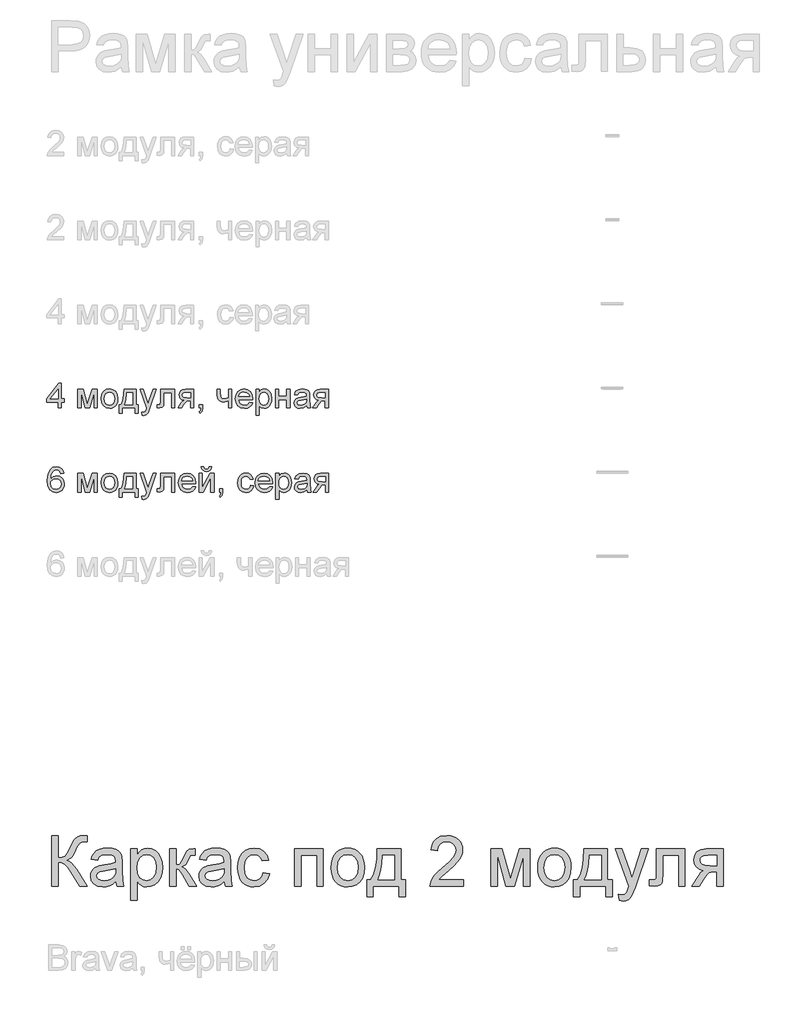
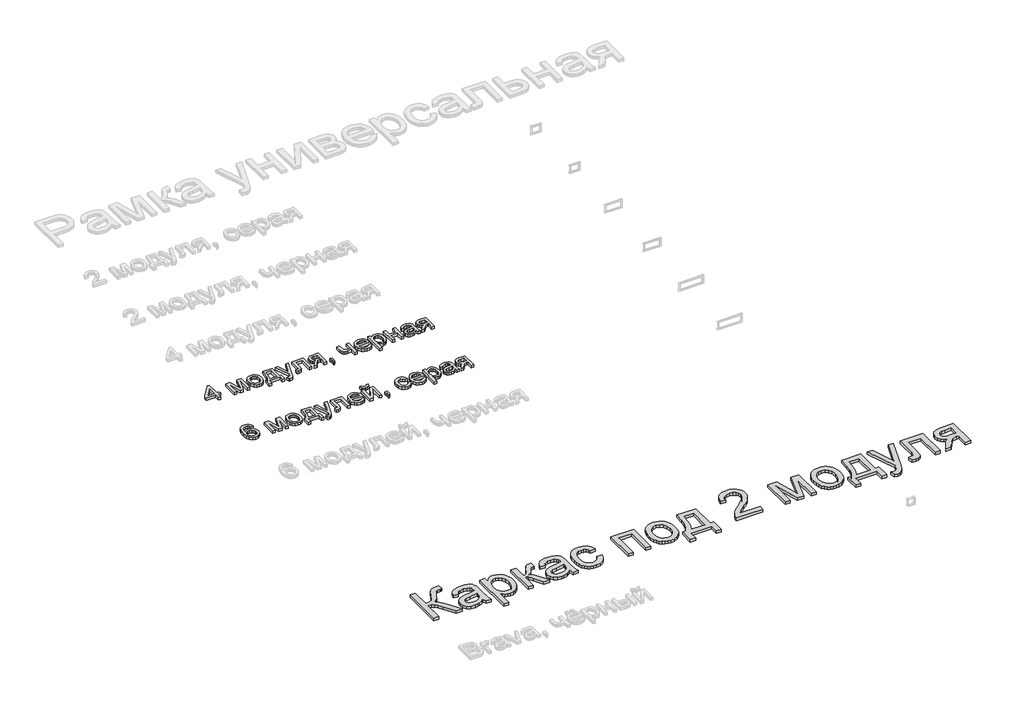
# One storey, part 5 of 168: 3 proxies.
"""IFC4 building model written with IfcOpenShell, lengths in millimetres."""

from ifc_helpers import new_model, si_unit, origin, origin_with_axes, place, context, project, spatial, polyline, outline, extrude, element, save

model = new_model("IFC4")

# Units and contexts
model_context = context("Model", 3, world=origin())
ifc_project = project(units=[si_unit("LENGTHUNIT", "METRE", prefix="MILLI")], contexts=[model_context])

# Site, building, storey
site = spatial("IfcSite", under=ifc_project)
building = spatial("IfcBuilding", under=site)
storey = spatial("IfcBuildingStorey", under=building, Name="Этаж 01", Elevation=0.0)

# Proxies
placement = place(None, origin())
element("IfcBuildingElementProxy", 1, Name="300 мм Arial 2", ObjectType="300 мм Arial 2", at=placement, inside=storey, context=model_context, shape_type="SweptSolid", body=[
    extrude(outline(polyline([(778.8177316, -47716.3130775), (816.4888479, -47716.3130775), (816.4888479, -47848.1619845), (841.9922672, -47845.669584), (858.6113363, -47838.1923825), (872.0482262, -47820.5984261), (888.0051077, -47787.7557609), (908.7904405, -47745.6332725), (918.8152248, -47734.2197336), (932.3348881, -47724.7743634), (948.3837402, -47718.4283989), (965.9960907, -47716.3130775), (990.7177608, -47716.7545359), (990.7177608, -47754.4256522), (982.4036277, -47754.204923), (974.0894946, -47753.9841938), (956.835829, -47756.246668), (944.658935, -47763.0340909), (934.1742981, -47777.2895182), (922.2917097, -47801.8088531), (907.7143856, -47832.3430587), (895.620265, -47849.0449013), (869.611008, -47864.6430979), (884.2021276, -47870.8511066), (898.6920797, -47881.6760343), (927.3684812, -47917.1766468), (990.7177608, -48017.6820079), (947.0133798, -48017.6820079), (893.4497613, -47932.7748434), (872.7655961, -47905.5423787), (855.7418568, -47888.445063), (838.3318413, -47879.4227571), (816.4888479, -47876.4153218), (816.4888479, -48017.6820079), (778.8177316, -48017.6820079), (778.8177316, -47716.3130775)])), origin_with_axes(), (0.0, 0.0, 1.0), 20.0),
    extrude(outline(polyline([(1160.2377842, -47989.4286707), (1142.2391575, -48004.8613204), (1123.707102, -48014.9596812), (1104.2185533, -48020.5330934), (1083.3504472, -48022.3908975), (1051.8689454, -48017.9211312), (1028.6463945, -48004.5118325), (1014.3265878, -47984.1495641), (1009.5533189, -47958.8208887), (1011.3559407, -47943.204298), (1016.763806, -47929.0224471), (1025.1055303, -47916.8823412), (1035.7097288, -47907.3909858), (1062.0868678, -47895.0301507), (1094.6812126, -47889.364768), (1133.1984575, -47883.4050797), (1160.017055, -47876.4153218), (1160.2377842, -47868.0276123), (1157.6442161, -47851.2154051), (1149.8635119, -47840.2157334), (1132.4626935, -47832.0487532), (1108.21927, -47829.3264264), (1085.7784683, -47831.1382452), (1070.1066953, -47836.5737017), (1059.4197234, -47846.6260772), (1051.9333248, -47862.2886532), (1014.2622085, -47857.5797636), (1020.8013109, -47836.9783719), (1030.5593809, -47820.7915641), (1044.4469262, -47808.412335), (1063.3744548, -47799.2336792), (1086.5234294, -47793.5499024), (1113.0753124, -47791.6553101), (1138.5419435, -47793.3291732), (1158.729468, -47798.3507624), (1173.9505855, -47805.9015403), (1184.5179958, -47815.1629696), (1191.5261479, -47826.6132967), (1196.0694905, -47840.7307682), (1197.9089005, -47873.692995), (1197.9089005, -47920.5611612), (1199.8218868, -47986.0073681), (1207.3266795, -48017.6820079), (1169.6555632, -48017.6820079), (1160.2377842, -47989.4286707)]), holes=[polyline([(1160.2377842, -47914.0864381), (1099.4636786, -47925.6379327), (1067.0532748, -47931.7447738), (1052.3747832, -47941.6775877), (1047.2244352, -47956.1721383), (1050.0295355, -47967.3741451), (1058.4448361, -47976.5528009), (1072.2863962, -47982.6780361), (1091.3702747, -47984.7197812), (1111.6037844, -47982.4665039), (1129.4828494, -47975.7066723), (1143.9774, -47965.7462672), (1154.0573666, -47953.89127), (1158.5271329, -47941.6775877), (1160.017055, -47924.7550159), (1160.2377842, -47914.0864381)])]), origin_with_axes(), (0.0, 0.0, 1.0), 20.0),
    extrude(outline(polyline([(1249.7066854, -48102.4420196), (1249.7066854, -47796.3641996), (1287.3778017, -47796.3641996), (1287.3778017, -47833.2995519), (1299.6650603, -47815.0801961), (1313.423847, -47802.0663705), (1329.4635019, -47794.2580752), (1348.5933657, -47791.6553101), (1374.0691939, -47795.2973418), (1396.3444487, -47806.2234371), (1414.481031, -47823.7714083), (1427.5408419, -47847.2790678), (1435.4319107, -47875.0357643), (1438.0622669, -47905.3308466), (1435.0916198, -47937.5481123), (1426.1796785, -47966.3624696), (1411.6115515, -47990.3115875), (1391.6723473, -48007.933135), (1368.4497964, -48018.7764569), (1344.031629, -48022.3908975), (1326.713584, -48019.9720733), (1311.2533432, -48012.715601), (1298.0187884, -48001.7619146), (1287.3778017, -47988.2514483), (1287.3778017, -48102.4420196), (1249.7066854, -48102.4420196)]), holes=[polyline([(1287.3778017, -47908.7889373), (1291.4520948, -47942.5605045), (1303.6749741, -47966.1785286), (1321.7103889, -47980.084468), (1343.2222886, -47984.7197812), (1365.0836761, -47979.9189211), (1383.5789434, -47965.516341), (1396.1880988, -47941.0337942), (1400.3911506, -47905.9930342), (1396.2892664, -47872.405408), (1383.9836136, -47848.4562901), (1365.97579, -47834.1088923), (1344.7673929, -47829.3264264), (1323.4762225, -47834.412395), (1304.7786201, -47849.6703007), (1291.7280063, -47874.621897), (1287.3778017, -47908.7889373)])]), origin_with_axes(), (0.0, 0.0, 1.0), 20.0),
    extrude(outline(polyline([(1480.4422728, -47796.3641996), (1518.1133891, -47796.3641996), (1518.1133891, -47890.5419904), (1533.4356742, -47888.8497332), (1543.3500939, -47883.7729617), (1552.1240795, -47870.5292098), (1564.0250621, -47844.3360118), (1581.2051512, -47810.3069272), (1596.3618894, -47799.2336792), (1623.9162509, -47796.3641996), (1631.126738, -47796.3641996), (1631.126738, -47834.2560451), (1620.9731949, -47834.0353159), (1602.5790952, -47838.0084415), (1589.6296489, -47862.8036879), (1574.4361225, -47889.6222854), (1553.135755, -47902.7556726), (1565.0735258, -47908.0577719), (1576.9009319, -47917.4157701), (1600.2246504, -47948.2994636), (1640.5445171, -48017.6820079), (1597.7230528, -48017.6820079), (1558.2125265, -47949.7709916), (1538.3468988, -47921.0394078), (1529.0578784, -47915.8246805), (1518.1133891, -47914.0864381), (1518.1133891, -48017.6820079), (1480.4422728, -48017.6820079), (1480.4422728, -47796.3641996)])), origin_with_axes(), (0.0, 0.0, 1.0), 20.0),
    extrude(outline(polyline([(1805.3556509, -47989.4286707), (1787.3570243, -48004.8613204), (1768.8249688, -48014.9596812), (1749.3364201, -48020.5330934), (1728.4683139, -48022.3908975), (1696.9868122, -48017.9211312), (1673.7642612, -48004.5118325), (1659.4444546, -47984.1495641), (1654.6711857, -47958.8208887), (1656.4738075, -47943.204298), (1661.8816728, -47929.0224471), (1670.223397, -47916.8823412), (1680.8275955, -47907.3909858), (1707.2047346, -47895.0301507), (1739.7990794, -47889.364768), (1778.3163243, -47883.4050797), (1805.1349217, -47876.4153218), (1805.3556509, -47868.0276123), (1802.7620828, -47851.2154051), (1794.9813786, -47840.2157334), (1777.5805603, -47832.0487532), (1753.3371368, -47829.3264264), (1730.8963351, -47831.1382452), (1715.2245621, -47836.5737017), (1704.5375901, -47846.6260772), (1697.0511915, -47862.2886532), (1659.3800752, -47857.5797636), (1665.9191777, -47836.9783719), (1675.6772476, -47820.7915641), (1689.5647929, -47808.412335), (1708.4923216, -47799.2336792), (1731.6412961, -47793.5499024), (1758.1931791, -47791.6553101), (1783.6598102, -47793.3291732), (1803.8473347, -47798.3507624), (1819.0684523, -47805.9015403), (1829.6358626, -47815.1629696), (1836.6440146, -47826.6132967), (1841.1873572, -47840.7307682), (1843.0267672, -47873.692995), (1843.0267672, -47920.5611612), (1844.9397536, -47986.0073681), (1852.4445463, -48017.6820079), (1814.77343, -48017.6820079), (1805.3556509, -47989.4286707)]), holes=[polyline([(1805.3556509, -47914.0864381), (1744.5815453, -47925.6379327), (1712.1711415, -47931.7447738), (1697.4926499, -47941.6775877), (1692.342302, -47956.1721383), (1695.1474022, -47967.3741451), (1703.5627028, -47976.5528009), (1717.4042629, -47982.6780361), (1736.4881414, -47984.7197812), (1756.7216511, -47982.4665039), (1774.6007161, -47975.7066723), (1789.0952667, -47965.7462672), (1799.1752334, -47953.89127), (1803.6449996, -47941.6775877), (1805.1349217, -47924.7550159), (1805.3556509, -47914.0864381)])]), origin_with_axes(), (0.0, 0.0, 1.0), 20.0),
    extrude(outline(polyline([(2036.0912383, -47937.6308858), (2073.7623546, -47942.3397753), (2063.2593236, -47975.844628), (2043.5224546, -48001.1641063), (2016.4095515, -48017.0841997), (1983.7784186, -48022.3908975), (1962.6504957, -48020.5399912), (1943.7068722, -48014.9872723), (1926.9475481, -48005.7327409), (1912.3725233, -47992.7763968), (1900.5750076, -47976.3619621), (1892.1482106, -47956.7331584), (1887.0921324, -47933.8899857), (1885.4067731, -47907.8324442), (1888.2854497, -47874.3091973), (1896.9214795, -47845.2557168), (1911.4528183, -47821.7940425), (1932.0174218, -47805.0462147), (1956.6195303, -47795.0030362), (1983.2633838, -47791.6553101), (2015.0943734, -47796.253835), (2040.5426104, -47810.0494098), (2058.7987544, -47832.3062705), (2069.053465, -47862.2886532), (2031.3823487, -47866.9975427), (2024.5489407, -47850.5624146), (2013.907954, -47838.7809937), (2000.0479998, -47831.6900682), (1983.5576894, -47829.3264264), (1959.2130983, -47833.9801336), (1939.8900965, -47847.9412553), (1927.2809412, -47871.9639496), (1923.0778894, -47906.8023746), (1927.1889707, -47942.1098491), (1939.5222145, -47966.2153168), (1958.4957284, -47980.0936651), (1982.5276198, -47984.7197812), (2002.0345626, -47981.8319075), (2018.0282323, -47973.1682865), (2029.6625004, -47958.508189), (2036.0912383, -47937.6308858)])), origin_with_axes(), (0.0, 0.0, 1.0), 20.0),
    extrude(outline(polyline([(2224.4468198, -47796.3641996), (2393.9668432, -47796.3641996), (2393.9668432, -48017.6820079), (2356.2957269, -48017.6820079), (2356.2957269, -47834.0353159), (2262.1179361, -47834.0353159), (2262.1179361, -48017.6820079), (2224.4468198, -48017.6820079), (2224.4468198, -47796.3641996)])), origin_with_axes(), (0.0, 0.0, 1.0), 20.0),
    extrude(outline(polyline([(2441.0557386, -47907.0231038), (2443.0928851, -47878.3604978), (2449.2043248, -47853.6618204), (2459.3900575, -47832.9270714), (2473.6500833, -47816.156251), (2488.0066782, -47805.4370893), (2503.8531951, -47797.7805453), (2521.1896342, -47793.1866189), (2540.0159953, -47791.6553101), (2560.7990287, -47793.5200119), (2579.5909009, -47799.1141175), (2596.3916118, -47808.4376268), (2611.2011613, -47821.4905399), (2623.2883841, -47837.8313983), (2631.9221147, -47857.0187436), (2637.1023531, -47879.0525758), (2638.8290992, -47903.932895), (2635.7756786, -47941.9902874), (2626.6154169, -47970.9609945), (2611.6150286, -47992.6568352), (2591.041228, -48008.8896282), (2566.6046665, -48019.0155802), (2540.0159953, -48022.3908975), (2518.9294592, -48020.5330934), (2499.962843, -48014.9596812), (2483.1161469, -48005.6706608), (2468.3893708, -47992.6660322), (2456.4309067, -47976.1665248), (2447.8891466, -47956.3928675), (2442.7640906, -47933.3450605), (2441.0557386, -47907.0231038)]), holes=[polyline([(2478.7268549, -47906.9495274), (2483.0862565, -47941.0429913), (2496.1644614, -47965.3324), (2515.8461482, -47979.8729359), (2540.0159953, -47984.7197812), (2564.0754778, -47979.8453447), (2583.7203763, -47965.2220354), (2596.7985812, -47940.6107299), (2601.1579829, -47905.772305), (2596.7709901, -47872.6721225), (2583.6100117, -47848.7138075), (2563.937522, -47834.1732717), (2540.0159953, -47829.3264264), (2515.8461482, -47834.1548776), (2496.1644614, -47848.6402311), (2483.0862565, -47872.8744576), (2478.7268549, -47906.9495274)])]), origin_with_axes(), (0.0, 0.0, 1.0), 20.0),
    extrude(outline(polyline([(2714.1713318, -47796.3641996), (2855.4380179, -47796.3641996), (2855.4380179, -47980.0108916), (2883.6913552, -47980.0108916), (2883.6913552, -48078.8975719), (2846.0202389, -48078.8975719), (2846.0202389, -48017.6820079), (2690.6268841, -48017.6820079), (2690.6268841, -48078.8975719), (2652.9557678, -48078.8975719), (2652.9557678, -47980.0108916), (2676.5002155, -47980.0108916), (2693.6159253, -47949.0812129), (2705.5996813, -47908.163538), (2712.4514835, -47857.2578669), (2714.1713318, -47796.3641996)]), holes=[polyline([(2747.1335586, -47834.0353159), (2744.0433498, -47880.1585211), (2738.3043907, -47919.8621854), (2729.9166812, -47953.1463089), (2718.8802213, -47980.0108916), (2817.7669016, -47980.0108916), (2817.7669016, -47834.0353159), (2747.1335586, -47834.0353159)])]), origin_with_axes(), (0.0, 0.0, 1.0), 20.0),
    extrude(outline(polyline([(3227.4402915, -47980.0108916), (3227.4402915, -48017.6820079), (3029.6669309, -48017.6820079), (3033.7136328, -47991.7095391), (3043.0026532, -47971.41165), (3056.5958929, -47951.7207662), (3076.2591855, -47931.1101774), (3103.7583647, -47908.0531734), (3144.4093251, -47871.9455555), (3168.7999014, -47845.292505), (3180.9951896, -47823.6610437), (3185.0602856, -47802.6181935), (3181.2251158, -47783.7550442), (3169.7196064, -47768.0740742), (3152.0336795, -47757.5066639), (3129.6572571, -47753.9841938), (3106.1587947, -47757.4238904), (3087.9026507, -47767.7429804), (3076.1212298, -47784.1321233), (3072.0469367, -47805.7819787), (3034.3758204, -47801.0730892), (3043.5084909, -47764.6343775), (3052.0548495, -47750.0984402), (3063.254557, -47738.0181152), (3076.850096, -47728.5221612), (3092.5839491, -47721.7393369), (3130.4665975, -47716.3130775), (3150.6564213, -47717.8213936), (3168.6251575, -47722.3463422), (3184.3728061, -47729.8879231), (3197.8993672, -47740.4461364), (3208.7633824, -47753.2392327), (3216.5233933, -47767.485463), (3221.1793998, -47783.1848271), (3222.7314019, -47800.3373252), (3221.0575388, -47818.3543459), (3216.0359496, -47836.0586669), (3207.1240083, -47854.0664906), (3193.7790889, -47872.9940192), (3172.5063125, -47895.5911708), (3139.8108002, -47924.6078631), (3096.4743012, -47960.8442397), (3079.478153, -47980.0108916), (3227.4402915, -47980.0108916)])), origin_with_axes(), (0.0, 0.0, 1.0), 20.0),
    extrude(outline(polyline([(3392.2514253, -47796.3641996), (3457.0722328, -47796.3641996), (3507.0306078, -47973.5361685), (3560.8885319, -47796.3641996), (3622.9870127, -47796.3641996), (3622.9870127, -48017.6820079), (3585.3158964, -48017.6820079), (3585.3158964, -47839.4799695), (3531.1636667, -48017.6820079), (3481.7203265, -48017.6820079), (3429.9225416, -47830.9451072), (3429.9225416, -48017.6820079), (3392.2514253, -48017.6820079), (3392.2514253, -47796.3641996)])), origin_with_axes(), (0.0, 0.0, 1.0), 20.0),
    extrude(outline(polyline([(3670.0759081, -47907.0231038), (3672.1130546, -47878.3604978), (3678.2244942, -47853.6618204), (3688.410227, -47832.9270714), (3702.6702528, -47816.156251), (3717.0268477, -47805.4370893), (3732.8733646, -47797.7805453), (3750.2098037, -47793.1866189), (3769.0361648, -47791.6553101), (3789.8191982, -47793.5200119), (3808.6110704, -47799.1141175), (3825.4117813, -47808.4376268), (3840.2213308, -47821.4905399), (3852.3085536, -47837.8313983), (3860.9422842, -47857.0187436), (3866.1225225, -47879.0525758), (3867.8492687, -47903.932895), (3864.7958481, -47941.9902874), (3855.6355864, -47970.9609945), (3840.6351981, -47992.6568352), (3820.0613975, -48008.8896282), (3795.624836, -48019.0155802), (3769.0361648, -48022.3908975), (3747.9496286, -48020.5330934), (3728.9830125, -48014.9596812), (3712.1363164, -48005.6706608), (3697.4095403, -47992.6660322), (3685.4510762, -47976.1665248), (3676.9093161, -47956.3928675), (3671.7842601, -47933.3450605), (3670.0759081, -47907.0231038)]), holes=[polyline([(3707.7470244, -47906.9495274), (3712.106426, -47941.0429913), (3725.1846309, -47965.3324), (3744.8663177, -47979.8729359), (3769.0361648, -47984.7197812), (3793.0956472, -47979.8453447), (3812.7405458, -47965.2220354), (3825.8187507, -47940.6107299), (3830.1781524, -47905.772305), (3825.7911596, -47872.6721225), (3812.6301812, -47848.7138075), (3792.9576915, -47834.1732717), (3769.0361648, -47829.3264264), (3744.8663177, -47834.1548776), (3725.1846309, -47848.6402311), (3712.106426, -47872.8744576), (3707.7470244, -47906.9495274)])]), origin_with_axes(), (0.0, 0.0, 1.0), 20.0),
    extrude(outline(polyline([(3943.1915013, -47796.3641996), (4084.4581874, -47796.3641996), (4084.4581874, -47980.0108916), (4112.7115247, -47980.0108916), (4112.7115247, -48078.8975719), (4075.0404083, -48078.8975719), (4075.0404083, -48017.6820079), (3919.6470536, -48017.6820079), (3919.6470536, -48078.8975719), (3881.9759373, -48078.8975719), (3881.9759373, -47980.0108916), (3905.520385, -47980.0108916), (3922.6360948, -47949.0812129), (3934.6198508, -47908.163538), (3941.4716529, -47857.2578669), (3943.1915013, -47796.3641996)]), holes=[polyline([(3976.153728, -47834.0353159), (3973.0635193, -47880.1585211), (3967.3245602, -47919.8621854), (3958.9368507, -47953.1463089), (3947.9003908, -47980.0108916), (4046.7870711, -47980.0108916), (4046.7870711, -47834.0353159), (3976.153728, -47834.0353159)])]), origin_with_axes(), (0.0, 0.0, 1.0), 20.0),
    extrude(outline(polyline([(4155.0915305, -48102.4420196), (4150.382641, -48066.1688549), (4169.5125047, -48069.4797928), (4187.3915697, -48065.3227263), (4198.3544531, -48053.7344434), (4208.655149, -48025.996141), (4211.598205, -48016.8726675), (4131.5470828, -47796.3641996), (4171.2783383, -47796.3641996), (4213.7319205, -47919.236786), (4228.5207767, -47968.3858206), (4243.3096329, -47924.9757451), (4286.9404376, -47796.3641996), (4326.3773875, -47796.3641996), (4249.3428977, -48022.9795086), (4229.3301171, -48072.1285432), (4219.0846036, -48087.8187103), (4207.4779266, -48098.6896233), (4193.9950515, -48105.0355877), (4178.1209434, -48107.1509091), (4155.0915305, -48102.4420196)])), origin_with_axes(), (0.0, 0.0, 1.0), 20.0),
    extrude(outline(polyline([(4376.4093388, -47796.3641996), (4545.9293622, -47796.3641996), (4545.9293622, -48017.4612787), (4508.2582459, -48017.4612787), (4508.2582459, -47834.0353159), (4414.0804551, -47834.0353159), (4414.0804551, -47939.6174485), (4411.5420693, -47988.3250247), (4406.7871945, -47999.3522875), (4397.5993417, -48008.8896282), (4383.6566141, -48015.483913), (4364.6371149, -48017.6820079), (4334.029333, -48015.7690215), (4334.029333, -47980.0108916), (4350.8783283, -47980.0108916), (4367.9112647, -47977.693235), (4374.7170816, -47970.3355951), (4376.4093388, -47937.483733), (4376.4093388, -47796.3641996)])), origin_with_axes(), (0.0, 0.0, 1.0), 20.0),
    extrude(outline(polyline([(4771.95606, -47796.3641996), (4771.95606, -48017.6820079), (4734.2849437, -48017.6820079), (4734.2849437, -47932.9219962), (4713.7571284, -47932.9219962), (4685.7980967, -47937.7044622), (4674.6328782, -47948.1339167), (4659.5313223, -47969.8573485), (4629.5121515, -48017.6820079), (4585.9549232, -48017.6820079), (4623.7731924, -47957.2022079), (4640.4750349, -47935.4971702), (4655.8525023, -47925.8586619), (4630.1007627, -47917.9675931), (4612.0009685, -47902.9764018), (4601.2956024, -47883.0371977), (4597.7271471, -47860.3020904), (4602.6015835, -47834.5135625), (4617.2248928, -47814.0961118), (4641.0820402, -47800.7971777), (4673.6579909, -47796.3641996), (4771.95606, -47796.3641996)]), holes=[polyline([(4734.2849437, -47834.0353159), (4684.6208744, -47834.0353159), (4658.9703022, -47836.2150167), (4644.4113723, -47842.7541192), (4637.6515406, -47852.2178835), (4635.3982634, -47863.1715699), (4638.7183984, -47877.5281648), (4648.6788034, -47887.4885698), (4667.0821002, -47893.3103024), (4695.7309106, -47895.2508799), (4734.2849437, -47895.2508799), (4734.2849437, -47834.0353159)])]), origin_with_axes(), (0.0, 0.0, 1.0), 20.0),
])
element("IfcBuildingElementProxy", 2, Name="150", ObjectType="150", at=placement, inside=storey, context=model_context, shape_type="SweptSolid", body=[
    extrude(outline(polyline([(816.4888479, -45175.2343796), (816.4888479, -45139.9177081), (748.2099496, -45139.9177081), (748.2099496, -45121.0821499), (821.1977374, -45026.9043591), (835.324406, -45026.9043591), (835.324406, -45121.0821499), (854.1599642, -45121.0821499), (854.1599642, -45139.9177081), (835.324406, -45139.9177081), (835.324406, -45175.2343796), (816.4888479, -45175.2343796)]), holes=[polyline([(816.4888479, -45121.0821499), (816.4888479, -45062.8832183), (771.3865153, -45121.0821499), (816.4888479, -45121.0821499)])]), origin_with_axes(), (0.0, 0.0, 1.0), 20.0),
    extrude(outline(polyline([(934.2110863, -45064.5754754), (966.6214901, -45064.5754754), (991.6006776, -45153.1614599), (1018.5296396, -45064.5754754), (1049.57888, -45064.5754754), (1049.57888, -45175.2343796), (1030.7433219, -45175.2343796), (1030.7433219, -45086.1333604), (1003.667207, -45175.2343796), (978.9455369, -45175.2343796), (953.0466445, -45081.8659292), (953.0466445, -45175.2343796), (934.2110863, -45175.2343796), (934.2110863, -45064.5754754)])), origin_with_axes(), (0.0, 0.0, 1.0), 20.0),
    extrude(outline(polyline([(1073.1233277, -45119.9049275), (1077.1976208, -45093.2242858), (1089.4205001, -45074.4715011), (1104.522056, -45065.2836483), (1122.6034561, -45062.2210307), (1142.3909089, -45065.9504344), (1158.1960391, -45077.1386456), (1168.5565158, -45094.9027474), (1172.010008, -45118.3598231), (1170.4832977, -45137.3885193), (1165.9031669, -45151.8738729), (1158.4029727, -45162.7217932), (1148.1160724, -45170.8381898), (1135.8977917, -45175.9011657), (1122.6034561, -45177.5888244), (1102.5768799, -45173.8732162), (1086.7901438, -45162.7263918), (1076.5400317, -45144.5898094), (1073.1233277, -45119.9049275)]), holes=[polyline([(1091.9588859, -45119.8681393), (1094.1385867, -45136.9148713), (1100.6776891, -45149.0595756), (1110.5185325, -45156.3298436), (1122.6034561, -45158.7532662), (1134.6331973, -45156.316048), (1144.4556466, -45149.0043933), (1150.994749, -45136.6987406), (1153.1744499, -45119.2795281), (1150.9809535, -45102.7294369), (1144.4004643, -45090.7502794), (1134.5642194, -45083.4800115), (1122.6034561, -45081.0565888), (1110.5185325, -45083.4708144), (1100.6776891, -45090.7134912), (1094.1385867, -45102.8306044), (1091.9588859, -45119.8681393)])]), origin_with_axes(), (0.0, 0.0, 1.0), 20.0),
    extrude(outline(polyline([(1209.6811243, -45064.5754754), (1280.3144674, -45064.5754754), (1280.3144674, -45156.3988214), (1294.441136, -45156.3988214), (1294.441136, -45205.8421616), (1275.6055778, -45205.8421616), (1275.6055778, -45175.2343796), (1197.9089005, -45175.2343796), (1197.9089005, -45205.8421616), (1179.0733423, -45205.8421616), (1179.0733423, -45156.3988214), (1190.8455662, -45156.3988214), (1199.4034211, -45140.9339821), (1205.3952991, -45120.4751446), (1209.6811243, -45064.5754754)]), holes=[polyline([(1226.1622377, -45083.4110336), (1221.7476538, -45126.3244683), (1212.0355691, -45156.3988214), (1261.4789092, -45156.3988214), (1261.4789092, -45083.4110336), (1226.1622377, -45083.4110336)])]), origin_with_axes(), (0.0, 0.0, 1.0), 20.0),
    extrude(outline(polyline([(1315.6311389, -45217.6143854), (1313.2766942, -45199.4778031), (1322.841626, -45201.1332721), (1331.7811585, -45199.0547388), (1337.2626002, -45193.2605974), (1342.4129482, -45179.3914461), (1343.8844762, -45174.8297094), (1303.8589151, -45064.5754754), (1323.7245428, -45064.5754754), (1344.9513339, -45126.0117686), (1352.345762, -45150.5862859), (1359.7401901, -45128.8812482), (1381.5555925, -45064.5754754), (1401.2740674, -45064.5754754), (1362.7568225, -45177.88313), (1352.7504322, -45202.4576472), (1341.824337, -45215.7381873), (1327.1458454, -45219.9688302), (1315.6311389, -45217.6143854)])), origin_with_axes(), (0.0, 0.0, 1.0), 20.0),
    extrude(outline(polyline([(1426.2900431, -45064.5754754), (1511.0500548, -45064.5754754), (1511.0500548, -45175.124015), (1492.2144966, -45175.124015), (1492.2144966, -45083.4110336), (1445.1256012, -45083.4110336), (1445.1256012, -45136.2020999), (1443.8564083, -45160.555888), (1436.8850445, -45170.8381898), (1420.4039312, -45175.2343796), (1405.1000402, -45174.2778864), (1405.1000402, -45156.3988214), (1413.5245378, -45156.3988214), (1422.041006, -45155.2399932), (1425.4439145, -45151.5611732), (1426.2900431, -45135.1352421), (1426.2900431, -45064.5754754)])), origin_with_axes(), (0.0, 0.0, 1.0), 20.0),
    extrude(outline(polyline([(1624.0634037, -45064.5754754), (1624.0634037, -45175.2343796), (1605.2278455, -45175.2343796), (1605.2278455, -45132.8543737), (1594.9639379, -45132.8543737), (1580.984422, -45135.2456067), (1567.8510348, -45151.3220499), (1552.8414494, -45175.2343796), (1531.0628353, -45175.2343796), (1549.9719699, -45144.9944796), (1558.3228911, -45134.1419607), (1566.0116248, -45129.3227066), (1553.135755, -45125.3771722), (1544.0858579, -45117.8815765), (1538.7331749, -45107.9119745), (1536.9489472, -45096.5444208), (1539.3861654, -45083.6501569), (1546.6978201, -45073.4414315), (1558.6263938, -45066.7919645), (1574.9143691, -45064.5754754), (1624.0634037, -45064.5754754)]), holes=[polyline([(1605.2278455, -45083.4110336), (1580.3958109, -45083.4110336), (1567.5705248, -45084.500884), (1560.2910598, -45087.7704352), (1555.7845054, -45097.9791606), (1557.4445729, -45105.157458), (1562.4247754, -45110.1376605), (1585.950829, -45114.0188156), (1605.2278455, -45114.0188156), (1605.2278455, -45083.4110336)])]), origin_with_axes(), (0.0, 0.0, 1.0), 20.0),
    extrude(outline(polyline([(1657.0256304, -45175.2343796), (1657.0256304, -45156.3988214), (1675.8611886, -45156.3988214), (1675.8611886, -45175.2343796), (1672.4766742, -45194.493002), (1661.73452, -45205.8421616), (1657.0256304, -45198.7788273), (1663.941812, -45190.6486352), (1666.4066213, -45175.2343796), (1657.0256304, -45175.2343796)])), origin_with_axes(), (0.0, 0.0, 1.0), 20.0),
    extrude(outline(polyline([(1762.9756451, -45064.5754754), (1781.8112032, -45064.5754754), (1781.8112032, -45085.8022666), (1783.3379135, -45105.7046825), (1790.6771593, -45116.483625), (1805.2452863, -45121.0821499), (1831.2545434, -45115.379979), (1831.2545434, -45064.5754754), (1850.0901015, -45064.5754754), (1850.0901015, -45175.2343796), (1831.2545434, -45175.2343796), (1831.2545434, -45133.4429849), (1800.205303, -45139.9177081), (1788.8147567, -45138.2300494), (1778.8497532, -45133.1670734), (1771.0828445, -45125.6576822), (1766.286583, -45116.6307778), (1762.9756451, -45095.109681), (1762.9756451, -45064.5754754)])), origin_with_axes(), (0.0, 0.0, 1.0), 20.0),
    extrude(outline(polyline([(1955.8193869, -45142.2721528), (1974.2870631, -45144.6265976), (1967.6329975, -45158.5417341), (1957.0150034, -45168.9435975), (1942.6722041, -45175.4275176), (1924.8437229, -45177.5888244), (1902.7432121, -45173.8594206), (1885.7378668, -45162.6712095), (1874.894545, -45144.7507578), (1871.2801044, -45120.8246325), (1874.9313332, -45096.0937654), (1885.8850196, -45077.5984981), (1902.6604386, -45066.0653975), (1923.7768652, -45062.2210307), (1944.2357026, -45066.0562005), (1960.5834588, -45077.5617099), (1971.3026204, -45096.020189), (1974.8756743, -45120.7142679), (1974.7653097, -45125.7910394), (1890.1156626, -45125.7910394), (1893.3760168, -45139.8901169), (1900.9497874, -45150.2551921), (1911.8804811, -45156.6287477), (1925.2116049, -45158.7532662), (1943.6792811, -45154.8169289), (1955.8193869, -45142.2721528)]), holes=[polyline([(1890.1156626, -45106.9554813), (1956.0401161, -45106.9554813), (1953.4925333, -45097.0042733), (1948.4985352, -45089.8857567), (1937.5172577, -45083.2638808), (1923.7032888, -45081.0565888), (1911.0067614, -45082.8178239), (1900.508329, -45088.101529), (1893.2104699, -45096.3374872), (1890.1156626, -45106.9554813)])]), origin_with_axes(), (0.0, 0.0, 1.0), 20.0),
    extrude(outline(polyline([(1993.7112324, -45217.6143854), (1993.7112324, -45064.5754754), (2012.5467906, -45064.5754754), (2012.5467906, -45083.0431516), (2025.5698132, -45067.4265609), (2043.1545726, -45062.2210307), (2055.8924867, -45064.0420466), (2067.0301141, -45069.5050942), (2076.0984053, -45078.2790798), (2082.6283107, -45090.0329095), (2087.8890232, -45119.0587989), (2086.4036996, -45135.1674318), (2081.947729, -45149.5746104), (2074.6636655, -45161.5491694), (2064.6940634, -45170.3599432), (2053.0827879, -45175.7816041), (2040.8737042, -45177.5888244), (2024.4845613, -45172.7511761), (2012.5467906, -45160.5190998), (2012.5467906, -45217.6143854), (1993.7112324, -45217.6143854)]), holes=[polyline([(2012.5467906, -45120.7878443), (2014.5839371, -45137.6736279), (2020.6953768, -45149.4826399), (2029.7130842, -45156.4356096), (2040.469034, -45158.7532662), (2051.3997278, -45156.3528362), (2060.6473615, -45149.1515461), (2066.9519391, -45136.9102727), (2069.053465, -45119.3898927), (2067.0025229, -45102.5960796), (2060.8496966, -45090.6215207), (2051.8457847, -45083.4478218), (2041.2415862, -45081.0565888), (2030.596001, -45083.5995731), (2021.2471998, -45091.228526), (2014.7218929, -45103.7043242), (2012.5467906, -45120.7878443)])]), origin_with_axes(), (0.0, 0.0, 1.0), 20.0),
    extrude(outline(polyline([(2109.0790261, -45064.5754754), (2127.9145843, -45064.5754754), (2127.9145843, -45106.9554813), (2177.3579244, -45106.9554813), (2177.3579244, -45064.5754754), (2196.1934826, -45064.5754754), (2196.1934826, -45175.2343796), (2177.3579244, -45175.2343796), (2177.3579244, -45125.7910394), (2127.9145843, -45125.7910394), (2127.9145843, -45175.2343796), (2109.0790261, -45175.2343796), (2109.0790261, -45064.5754754)])), origin_with_axes(), (0.0, 0.0, 1.0), 20.0),
    extrude(outline(polyline([(2295.0801629, -45161.107711), (2276.8148218, -45173.8732162), (2256.6364944, -45177.5888244), (2240.8957435, -45175.3539412), (2229.284468, -45168.6492919), (2222.1245647, -45158.4681577), (2219.7379303, -45145.80382), (2223.3431738, -45130.9045992), (2232.8161352, -45120.0888685), (2246.0047047, -45113.908451), (2262.3018771, -45111.0757596), (2294.9697983, -45104.6010365), (2295.0801629, -45100.4071818), (2293.7833789, -45092.0010782), (2289.8930268, -45086.5012424), (2281.1926176, -45082.4177522), (2269.0709058, -45081.0565888), (2250.0146185, -45084.6802265), (2240.9279332, -45097.5377022), (2222.092375, -45095.1832574), (2230.2409612, -45076.7891577), (2246.6484982, -45066.0102152), (2271.498927, -45062.2210307), (2294.3260048, -45065.5687568), (2307.2202687, -45073.9748604), (2312.996016, -45086.7587598), (2313.915721, -45103.2398731), (2313.915721, -45126.6739562), (2314.8722142, -45159.3970597), (2318.6246106, -45175.2343796), (2299.7890524, -45175.2343796), (2295.0801629, -45161.107711)]), holes=[polyline([(2295.0801629, -45123.4365947), (2264.6931101, -45129.212342), (2248.4879082, -45132.2657626), (2241.1486624, -45137.2321695), (2238.5734884, -45144.4794448), (2244.1836889, -45154.6697761), (2260.6464081, -45158.7532662), (2279.7026955, -45154.2467118), (2291.9899541, -45143.3390106), (2294.9697983, -45128.7708836), (2295.0801629, -45123.4365947)])]), origin_with_axes(), (0.0, 0.0, 1.0), 20.0),
    extrude(outline(polyline([(2424.5746252, -45064.5754754), (2424.5746252, -45175.2343796), (2405.739067, -45175.2343796), (2405.739067, -45132.8543737), (2395.4751594, -45132.8543737), (2381.4956436, -45135.2456067), (2368.3622563, -45151.3220499), (2353.3526709, -45175.2343796), (2331.5740568, -45175.2343796), (2350.4831914, -45144.9944796), (2358.8341126, -45134.1419607), (2366.5228463, -45129.3227066), (2353.6469765, -45125.3771722), (2344.5970794, -45117.8815765), (2339.2443964, -45107.9119745), (2337.4601687, -45096.5444208), (2339.8973869, -45083.6501569), (2347.2090416, -45073.4414315), (2359.1376153, -45066.7919645), (2375.4255906, -45064.5754754), (2424.5746252, -45064.5754754)]), holes=[polyline([(2405.739067, -45083.4110336), (2380.9070324, -45083.4110336), (2368.0817463, -45084.500884), (2360.8022813, -45087.7704352), (2356.2957269, -45097.9791606), (2357.9557944, -45105.157458), (2362.9359969, -45110.1376605), (2386.4620505, -45114.0188156), (2405.739067, -45114.0188156), (2405.739067, -45083.4110336)])]), origin_with_axes(), (0.0, 0.0, 1.0), 20.0),
])
element("IfcBuildingElementProxy", 3, Name="150", ObjectType="150", at=placement, inside=storey, context=model_context, shape_type="SweptSolid", body=[
    extrude(outline(polyline([(851.8055194, -45564.5754754), (832.9699613, -45566.9299202), (825.8330505, -45551.221359), (817.2889912, -45545.3444441), (806.9607042, -45543.3854725), (789.964556, -45547.9472093), (777.1070803, -45565.0721161), (773.2029326, -45579.1022157), (771.7543973, -45598.6413482), (788.3642693, -45583.6133687), (808.947267, -45578.7021441), (826.3480853, -45582.0590673), (840.9530005, -45592.1298369), (850.8582233, -45607.5165013), (854.1599642, -45626.821109), (852.6056627, -45640.3085827), (847.9427585, -45652.811972), (840.5575274, -45663.4161705), (830.8362457, -45671.2060717), (819.2203717, -45675.9931362), (806.1513638, -45677.5888244), (784.7820184, -45673.3581814), (767.7628776, -45660.6662526), (756.6298487, -45638.2622391), (752.9188391, -45604.8953421), (757.0391174, -45567.3805757), (769.3999525, -45541.7300035), (786.276539, -45528.8449367), (808.1379266, -45524.5499144), (824.6650252, -45527.2078618), (837.89958, -45535.181704), (847.1702063, -45547.8460417), (851.8055194, -45564.5754754)]), holes=[polyline([(771.7543973, -45626.5268034), (776.1137989, -45642.8423699), (787.7020817, -45654.6881702), (804.6798358, -45658.7532662), (817.1096487, -45656.6471418), (826.8815142, -45650.3287685), (833.2136831, -45640.3959547), (835.324406, -45627.4465084), (833.2412742, -45615.0166955), (826.9918788, -45605.5391356), (817.0544664, -45599.5380606), (803.9072836, -45597.5377022), (791.4958648, -45599.5380606), (781.116994, -45605.5391356), (774.0950464, -45614.7867693), (771.7543973, -45626.5268034)])]), origin_with_axes(), (0.0, 0.0, 1.0), 20.0),
    extrude(outline(polyline([(934.2110863, -45564.5754754), (966.6214901, -45564.5754754), (991.6006776, -45653.1614599), (1018.5296396, -45564.5754754), (1049.57888, -45564.5754754), (1049.57888, -45675.2343796), (1030.7433219, -45675.2343796), (1030.7433219, -45586.1333604), (1003.667207, -45675.2343796), (978.9455369, -45675.2343796), (953.0466445, -45581.8659292), (953.0466445, -45675.2343796), (934.2110863, -45675.2343796), (934.2110863, -45564.5754754)])), origin_with_axes(), (0.0, 0.0, 1.0), 20.0),
    extrude(outline(polyline([(1073.1233277, -45619.9049275), (1077.1976208, -45593.2242858), (1089.4205001, -45574.4715011), (1104.522056, -45565.2836483), (1122.6034561, -45562.2210307), (1142.3909089, -45565.9504344), (1158.1960391, -45577.1386456), (1168.5565158, -45594.9027474), (1172.010008, -45618.3598231), (1170.4832977, -45637.3885193), (1165.9031669, -45651.8738729), (1158.4029727, -45662.7217932), (1148.1160724, -45670.8381898), (1135.8977917, -45675.9011657), (1122.6034561, -45677.5888244), (1102.5768799, -45673.8732162), (1086.7901438, -45662.7263918), (1076.5400317, -45644.5898094), (1073.1233277, -45619.9049275)]), holes=[polyline([(1091.9588859, -45619.8681393), (1094.1385867, -45636.9148713), (1100.6776891, -45649.0595756), (1110.5185325, -45656.3298436), (1122.6034561, -45658.7532662), (1134.6331973, -45656.316048), (1144.4556466, -45649.0043933), (1150.994749, -45636.6987406), (1153.1744499, -45619.2795281), (1150.9809535, -45602.7294369), (1144.4004643, -45590.7502794), (1134.5642194, -45583.4800115), (1122.6034561, -45581.0565888), (1110.5185325, -45583.4708144), (1100.6776891, -45590.7134912), (1094.1385867, -45602.8306044), (1091.9588859, -45619.8681393)])]), origin_with_axes(), (0.0, 0.0, 1.0), 20.0),
    extrude(outline(polyline([(1209.6811243, -45564.5754754), (1280.3144674, -45564.5754754), (1280.3144674, -45656.3988214), (1294.441136, -45656.3988214), (1294.441136, -45705.8421616), (1275.6055778, -45705.8421616), (1275.6055778, -45675.2343796), (1197.9089005, -45675.2343796), (1197.9089005, -45705.8421616), (1179.0733423, -45705.8421616), (1179.0733423, -45656.3988214), (1190.8455662, -45656.3988214), (1199.4034211, -45640.9339821), (1205.3952991, -45620.4751446), (1209.6811243, -45564.5754754)]), holes=[polyline([(1226.1622377, -45583.4110336), (1221.7476538, -45626.3244683), (1212.0355691, -45656.3988214), (1261.4789092, -45656.3988214), (1261.4789092, -45583.4110336), (1226.1622377, -45583.4110336)])]), origin_with_axes(), (0.0, 0.0, 1.0), 20.0),
    extrude(outline(polyline([(1315.6311389, -45717.6143854), (1313.2766942, -45699.4778031), (1322.841626, -45701.1332721), (1331.7811585, -45699.0547388), (1337.2626002, -45693.2605974), (1342.4129482, -45679.3914461), (1343.8844762, -45674.8297094), (1303.8589151, -45564.5754754), (1323.7245428, -45564.5754754), (1344.9513339, -45626.0117686), (1352.345762, -45650.5862859), (1359.7401901, -45628.8812482), (1381.5555925, -45564.5754754), (1401.2740674, -45564.5754754), (1362.7568225, -45677.88313), (1352.7504322, -45702.4576472), (1341.824337, -45715.7381873), (1327.1458454, -45719.9688302), (1315.6311389, -45717.6143854)])), origin_with_axes(), (0.0, 0.0, 1.0), 20.0),
    extrude(outline(polyline([(1426.2900431, -45564.5754754), (1511.0500548, -45564.5754754), (1511.0500548, -45675.124015), (1492.2144966, -45675.124015), (1492.2144966, -45583.4110336), (1445.1256012, -45583.4110336), (1445.1256012, -45636.2020999), (1443.8564083, -45660.555888), (1436.8850445, -45670.8381898), (1420.4039312, -45675.2343796), (1405.1000402, -45674.2778864), (1405.1000402, -45656.3988214), (1413.5245378, -45656.3988214), (1422.041006, -45655.2399932), (1425.4439145, -45651.5611732), (1426.2900431, -45635.1352421), (1426.2900431, -45564.5754754)])), origin_with_axes(), (0.0, 0.0, 1.0), 20.0),
    extrude(outline(polyline([(1616.7793402, -45642.2721528), (1635.2470163, -45644.6265976), (1628.5929507, -45658.5417341), (1617.9749567, -45668.9435975), (1603.6321574, -45675.4275176), (1585.8036762, -45677.5888244), (1563.7031653, -45673.8594206), (1546.6978201, -45662.6712095), (1535.8544983, -45644.7507578), (1532.2400577, -45620.8246325), (1535.8912865, -45596.0937654), (1546.8449729, -45577.5984981), (1563.6203919, -45566.0653975), (1584.7368184, -45562.2210307), (1605.1956559, -45566.0562005), (1621.543412, -45577.5617099), (1632.2625736, -45596.020189), (1635.8356275, -45620.7142679), (1635.7252629, -45625.7910394), (1551.0756158, -45625.7910394), (1554.33597, -45639.8901169), (1561.9097406, -45650.2551921), (1572.8404344, -45656.6287477), (1586.1715582, -45658.7532662), (1604.6392343, -45654.8169289), (1616.7793402, -45642.2721528)]), holes=[polyline([(1551.0756158, -45606.9554813), (1617.0000694, -45606.9554813), (1614.4524866, -45597.0042733), (1609.4584885, -45589.8857567), (1598.4772109, -45583.2638808), (1584.663242, -45581.0565888), (1571.9667146, -45582.8178239), (1561.4682822, -45588.101529), (1554.1704231, -45596.3374872), (1551.0756158, -45606.9554813)])]), origin_with_axes(), (0.0, 0.0, 1.0), 20.0),
    extrude(outline(polyline([(1715.8867497, -45524.5499144), (1730.0134183, -45524.5499144), (1726.9737933, -45536.6118453), (1720.8715507, -45545.500794), (1711.982602, -45550.9776372), (1700.5828587, -45552.8032516), (1688.2128266, -45550.9914328), (1678.6203036, -45545.5559763), (1672.062807, -45536.6808232), (1668.7978543, -45524.5499144), (1682.9245229, -45524.5499144), (1688.2220236, -45535.1633099), (1698.8906015, -45538.676583), (1710.5892489, -45535.2736745), (1715.8867497, -45524.5499144)])), origin_with_axes(), (0.0, 0.0, 1.0), 20.0),
    extrude(outline(polyline([(1654.6711857, -45564.5754754), (1673.5067438, -45564.5754754), (1673.5067438, -45648.9676051), (1719.7862988, -45564.5754754), (1744.1400869, -45564.5754754), (1744.1400869, -45675.2343796), (1725.3045288, -45675.2343796), (1725.3045288, -45591.3572847), (1679.3192794, -45675.2343796), (1654.6711857, -45675.2343796), (1654.6711857, -45564.5754754)])), origin_with_axes(), (0.0, 0.0, 1.0), 20.0),
    extrude(outline(polyline([(1777.1023137, -45675.2343796), (1777.1023137, -45656.3988214), (1795.9378718, -45656.3988214), (1795.9378718, -45675.2343796), (1792.5533575, -45694.493002), (1781.8112032, -45705.8421616), (1777.1023137, -45698.7788273), (1784.0184952, -45690.6486352), (1786.4833046, -45675.2343796), (1777.1023137, -45675.2343796)])), origin_with_axes(), (0.0, 0.0, 1.0), 20.0),
    extrude(outline(polyline([(1960.7490057, -45635.2088185), (1979.5845638, -45637.5632633), (1974.3330483, -45654.3156896), (1964.4646138, -45666.9754288), (1950.9081623, -45674.9354755), (1934.5925958, -45677.5888244), (1914.5568226, -45673.8870118), (1898.8896482, -45662.7815741), (1888.7774918, -45644.7599548), (1885.4067731, -45620.3095977), (1886.8461114, -45603.5479743), (1891.1641263, -45589.021234), (1898.4297957, -45577.2903969), (1908.7120974, -45568.916483), (1921.0131517, -45563.8948938), (1934.3350784, -45562.2210307), (1950.2505732, -45564.5202931), (1962.9746917, -45571.4180806), (1972.1027637, -45582.5465109), (1977.2301191, -45597.5377022), (1958.3945609, -45599.892147), (1949.6573635, -45585.7838725), (1934.4822312, -45581.0565888), (1922.3099357, -45583.3834424), (1912.6484348, -45590.3640033), (1906.3438571, -45602.3753504), (1904.2423312, -45619.7945629), (1906.2978719, -45637.4483002), (1912.4644938, -45649.501034), (1921.9512508, -45656.4402082), (1933.9671964, -45658.7532662), (1943.7206678, -45657.3093294), (1951.7175027, -45652.9775189), (1957.5346367, -45645.6474701), (1960.7490057, -45635.2088185)])), origin_with_axes(), (0.0, 0.0, 1.0), 20.0),
    extrude(outline(polyline([(2073.5416254, -45642.2721528), (2092.0093015, -45644.6265976), (2085.355236, -45658.5417341), (2074.7372419, -45668.9435975), (2060.3944426, -45675.4275176), (2042.5659614, -45677.5888244), (2020.4654505, -45673.8594206), (2003.4601053, -45662.6712095), (1992.6167835, -45644.7507578), (1989.0023429, -45620.8246325), (1992.6535717, -45596.0937654), (2003.6072581, -45577.5984981), (2020.3826771, -45566.0653975), (2041.4991036, -45562.2210307), (2061.9579411, -45566.0562005), (2078.3056972, -45577.5617099), (2089.0248589, -45596.020189), (2092.5979127, -45620.7142679), (2092.4875481, -45625.7910394), (2007.837901, -45625.7910394), (2011.0982552, -45639.8901169), (2018.6720258, -45650.2551921), (2029.6027196, -45656.6287477), (2042.9338434, -45658.7532662), (2061.4015195, -45654.8169289), (2073.5416254, -45642.2721528)]), holes=[polyline([(2007.837901, -45606.9554813), (2073.7623546, -45606.9554813), (2071.2147718, -45597.0042733), (2066.2207737, -45589.8857567), (2055.2394961, -45583.2638808), (2041.4255272, -45581.0565888), (2028.7289999, -45582.8178239), (2018.2305674, -45588.101529), (2010.9327083, -45596.3374872), (2007.837901, -45606.9554813)])]), origin_with_axes(), (0.0, 0.0, 1.0), 20.0),
    extrude(outline(polyline([(2111.4334709, -45717.6143854), (2111.4334709, -45564.5754754), (2130.269029, -45564.5754754), (2130.269029, -45583.0431516), (2143.2920517, -45567.4265609), (2160.876811, -45562.2210307), (2173.6147251, -45564.0420466), (2184.7523525, -45569.5050942), (2193.8206437, -45578.2790798), (2200.3505491, -45590.0329095), (2205.6112617, -45619.0587989), (2204.1259381, -45635.1674318), (2199.6699674, -45649.5746104), (2192.3859039, -45661.5491694), (2182.4163019, -45670.3599432), (2170.8050264, -45675.7816041), (2158.5959427, -45677.5888244), (2142.2067998, -45672.7511761), (2130.269029, -45660.5190998), (2130.269029, -45717.6143854), (2111.4334709, -45717.6143854)]), holes=[polyline([(2130.269029, -45620.7878443), (2132.3061756, -45637.6736279), (2138.4176152, -45649.4826399), (2147.4353226, -45656.4356096), (2158.1912725, -45658.7532662), (2169.1219663, -45656.3528362), (2178.3695999, -45649.1515461), (2184.6741776, -45636.9102727), (2186.7757035, -45619.3898927), (2184.7247614, -45602.5960796), (2178.571935, -45590.6215207), (2169.5680232, -45583.4478218), (2158.9638247, -45581.0565888), (2148.3182394, -45583.5995731), (2138.9694382, -45591.228526), (2132.4441313, -45603.7043242), (2130.269029, -45620.7878443)])]), origin_with_axes(), (0.0, 0.0, 1.0), 20.0),
    extrude(outline(polyline([(2297.4346077, -45661.107711), (2279.1692666, -45673.8732162), (2258.9909392, -45677.5888244), (2243.2501883, -45675.3539412), (2231.6389128, -45668.6492919), (2224.4790095, -45658.4681577), (2222.092375, -45645.80382), (2225.6976186, -45630.9045992), (2235.17058, -45620.0888685), (2248.3591495, -45613.908451), (2264.6563219, -45611.0757596), (2297.3242431, -45604.6010365), (2297.4346077, -45600.4071818), (2296.1378236, -45592.0010782), (2292.2474715, -45586.5012424), (2283.5470623, -45582.4177522), (2271.4253506, -45581.0565888), (2252.3690632, -45584.6802265), (2243.282378, -45597.5377022), (2224.4468198, -45595.1832574), (2232.595406, -45576.7891577), (2249.002943, -45566.0102152), (2273.8533718, -45562.2210307), (2296.6804496, -45565.5687568), (2309.5747135, -45573.9748604), (2315.3504608, -45586.7587598), (2316.2701658, -45603.2398731), (2316.2701658, -45626.6739562), (2317.226659, -45659.3970597), (2320.9790553, -45675.2343796), (2302.1434972, -45675.2343796), (2297.4346077, -45661.107711)]), holes=[polyline([(2297.4346077, -45623.4365947), (2267.0475549, -45629.212342), (2250.842353, -45632.2657626), (2243.5031072, -45637.2321695), (2240.9279332, -45644.4794448), (2246.5381336, -45654.6697761), (2263.0008529, -45658.7532662), (2282.0571403, -45654.2467118), (2294.3443989, -45643.3390106), (2297.3242431, -45628.7708836), (2297.4346077, -45623.4365947)])]), origin_with_axes(), (0.0, 0.0, 1.0), 20.0),
    extrude(outline(polyline([(2426.92907, -45564.5754754), (2426.92907, -45675.2343796), (2408.0935118, -45675.2343796), (2408.0935118, -45632.8543737), (2397.8296041, -45632.8543737), (2383.8500883, -45635.2456067), (2370.7167011, -45651.3220499), (2355.7071157, -45675.2343796), (2333.9285016, -45675.2343796), (2352.8376361, -45644.9944796), (2361.1885574, -45634.1419607), (2368.8772911, -45629.3227066), (2356.0014213, -45625.3771722), (2346.9515242, -45617.8815765), (2341.5988412, -45607.9119745), (2339.8146135, -45596.5444208), (2342.2518317, -45583.6501569), (2349.5634864, -45573.4414315), (2361.4920601, -45566.7919645), (2377.7800354, -45564.5754754), (2426.92907, -45564.5754754)]), holes=[polyline([(2408.0935118, -45583.4110336), (2383.2614771, -45583.4110336), (2370.4361911, -45584.500884), (2363.1567261, -45587.7704352), (2358.6501716, -45597.9791606), (2360.3102392, -45605.157458), (2365.2904417, -45610.1376605), (2388.8164953, -45614.0188156), (2408.0935118, -45614.0188156), (2408.0935118, -45583.4110336)])]), origin_with_axes(), (0.0, 0.0, 1.0), 20.0),
])

save(model, "model.ifc")
